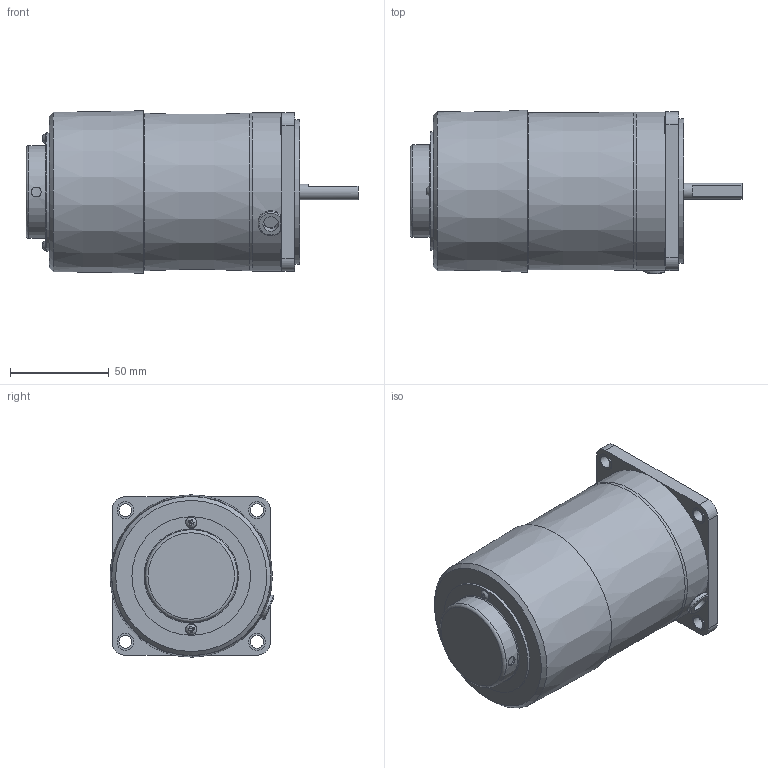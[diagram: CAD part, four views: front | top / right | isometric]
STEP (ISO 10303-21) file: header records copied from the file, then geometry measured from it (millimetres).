
FILE_DESCRIPTION(/* description */ (''),/* implementation_level */ '2;1');
FILE_NAME(/* name */ 'Y:\제품연구개발\3. 도면\3. 고객배포용\3D_홈페이지용\01-1 Standard AC SG Series\05-3 SPEED CONTROL ELECTROMAGNETIC BRAKE MOTOR(ES)\SG8R25_-ES12\SG8R25D-ES.stp',/* time_stamp */ '2023-12-04T10:15:45+09:00',/* author */ ('shyi1037'),/* organization */ (''),/* preprocessor_version */ 'ST-DEVELOPER v18.1',/* originating_system */ 'Autodesk Inventor 2022',/* authorisation */ '');
FILE_SCHEMA (('AUTOMOTIVE_DESIGN { 1 0 10303 214 3 1 1 }'));
Length unit declared in the file: millimetre
Products named in the file (1): SG8R25D-ES
Bounding box: 167.7 x 82.78 x 81.99 mm (x, y, z)
Volume: 655805.7 mm3; surface area: 51169.4 mm2
Topology: 1 solids, 6 shells, 145 faces, 336 edges, 221 vertices
Faces by surface type: plane 88, cylinder 43, torus 9, cone 3, bspline 2
Full cylindrical faces by diameter (mm): 3 x2, 3.5 x2, 5 x1, 5.6 x2, 6.5 x4, 8 x2, 8.5 x4, 34 x1, 44.7 x1, 46.7 x1, 47.7 x1, 59.9 x1, 73 x1, 78 x1, 80 x1
Entity records: 4488 total; most frequent: CARTESIAN_POINT 1030, DIRECTION 706, ORIENTED_EDGE 672, EDGE_CURVE 336, AXIS2_PLACEMENT_3D 262, VERTEX_POINT 221, LINE 182, VECTOR 182
